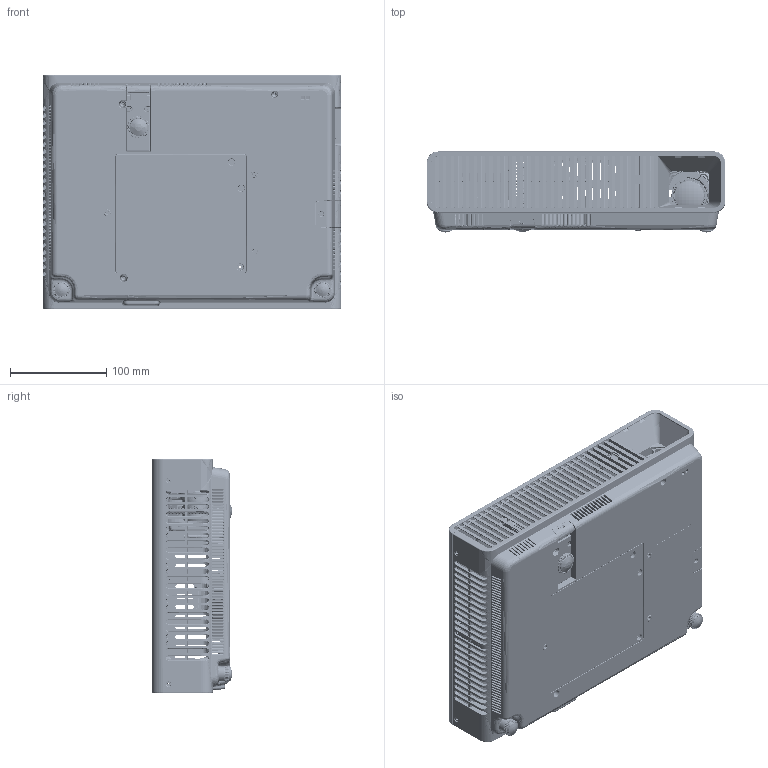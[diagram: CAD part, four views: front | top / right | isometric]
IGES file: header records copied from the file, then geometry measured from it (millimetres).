
Start section:  PTC IGES file: 0001.igs
Global section: file name: 0001.igs; native system: Pro/ENGINEER by Parametric Technology Corporation; preprocessor: 2011490; author: Administrator; organization: Unknown; date: 20140522.181728; units: millimetre
Bounding box: 311 x 84 x 243.9 mm (x, y, z)
Volume: 717334.6 mm3; surface area: 580001.5 mm2
Topology: 2 solids, 3 shells, 12546 faces, 33065 edges, 20510 vertices
Faces by surface type: bspline 6706, revolution 5713, extrusion 127
